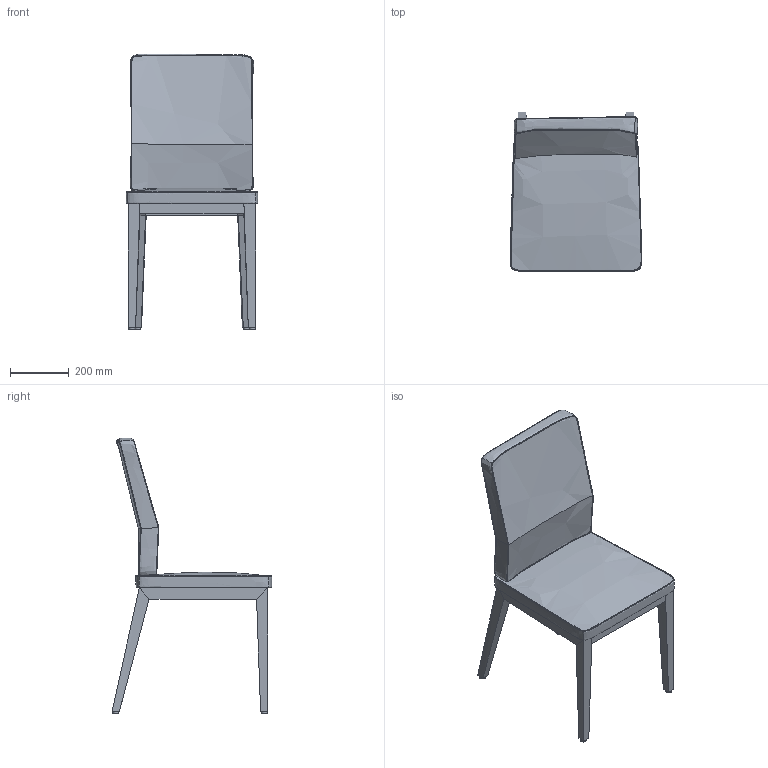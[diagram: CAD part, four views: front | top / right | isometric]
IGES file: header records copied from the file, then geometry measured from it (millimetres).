
Global section: file name: M:\STUDIO polstrin\BA _Datab; native system: Rhinoceros ( May 22 2017 ); preprocessor: Trout Lake IGES 012 May 22 2017; date: 180702.111603; units: millimetre
Bounding box: 448.6 x 544.86 x 939.65 mm (x, y, z)
Surface area: 1432836.9 mm2 (no closed solid volume)
Topology: 0 solids, 0 shells, 89 faces, 508 edges, 521 vertices
Faces by surface type: bspline 89
